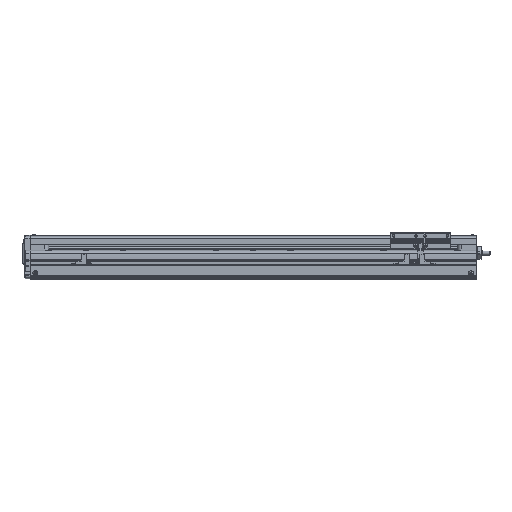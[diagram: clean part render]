
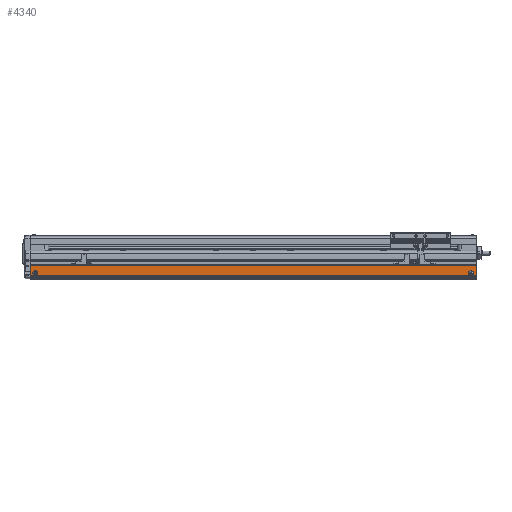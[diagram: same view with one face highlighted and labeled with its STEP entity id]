
A CAD part, left-side view. The second image highlights one B-rep face of the part: STEP entity #4340.
In plain terms, the highlighted planar face has unit normal (-1, 0, 0).
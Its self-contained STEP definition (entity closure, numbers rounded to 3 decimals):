
#4340=ADVANCED_FACE('',(#9778,#9779,#9780),#9781,.F.);
#9778=FACE_BOUND('',#16981,.T.);
#9779=FACE_BOUND('',#16982,.T.);
#9780=FACE_OUTER_BOUND('',#16983,.T.);
#9781=PLANE('',#16984);
#16981=EDGE_LOOP('',(#29174,#29175));
#16982=EDGE_LOOP('',(#29176,#29177));
#16983=EDGE_LOOP('',(#29178,#29179,#29180,#29181));
#16984=AXIS2_PLACEMENT_3D('',#29182,#29183,#29184);
#29174=ORIENTED_EDGE('',*,*,#45676,.F.);
#29175=ORIENTED_EDGE('',*,*,#42914,.F.);
#29176=ORIENTED_EDGE('',*,*,#45677,.F.);
#29177=ORIENTED_EDGE('',*,*,#45678,.F.);
#29178=ORIENTED_EDGE('',*,*,#45679,.F.);
#29179=ORIENTED_EDGE('',*,*,#45680,.F.);
#29180=ORIENTED_EDGE('',*,*,#45681,.F.);
#29181=ORIENTED_EDGE('',*,*,#45682,.T.);
#29182=CARTESIAN_POINT('',(251.5,615.,-23.942));
#29183=DIRECTION('',(1.,0.,0.));
#29184=DIRECTION('',(0.,0.,1.));
#42914=EDGE_CURVE('',#51820,#51812,#51822,.T.);
#45676=EDGE_CURVE('',#51812,#51820,#56228,.T.);
#45677=EDGE_CURVE('',#56229,#56230,#56231,.T.);
#45678=EDGE_CURVE('',#56230,#56229,#56232,.T.);
#45679=EDGE_CURVE('',#56233,#56234,#56235,.T.);
#45680=EDGE_CURVE('',#56236,#56233,#56237,.T.);
#45681=EDGE_CURVE('',#56238,#56236,#56239,.T.);
#45682=EDGE_CURVE('',#56238,#56234,#56240,.T.);
#51812=VERTEX_POINT('',#64306);
#51820=VERTEX_POINT('',#64324);
#51822=CIRCLE('',#64327,3.25);
#56228=CIRCLE('',#70662,3.25);
#56229=VERTEX_POINT('',#70663);
#56230=VERTEX_POINT('',#70664);
#56231=CIRCLE('',#70665,3.25);
#56232=CIRCLE('',#70666,3.25);
#56233=VERTEX_POINT('',#70667);
#56234=VERTEX_POINT('',#70668);
#56235=LINE('',#70669,#70670);
#56236=VERTEX_POINT('',#70671);
#56237=LINE('',#70672,#70673);
#56238=VERTEX_POINT('',#70674);
#56239=LINE('',#70675,#70676);
#56240=LINE('',#70677,#70678);
#64306=CARTESIAN_POINT('',(251.5,611.25,-27.));
#64324=CARTESIAN_POINT('',(251.5,604.75,-27.));
#64327=AXIS2_PLACEMENT_3D('',#78572,#78573,#78574);
#70662=AXIS2_PLACEMENT_3D('',#81919,#81920,#81921);
#70663=CARTESIAN_POINT('',(251.5,18.75,-27.));
#70664=CARTESIAN_POINT('',(251.5,25.25,-27.));
#70665=AXIS2_PLACEMENT_3D('',#81922,#81923,#81924);
#70666=AXIS2_PLACEMENT_3D('',#81925,#81926,#81927);
#70667=CARTESIAN_POINT('',(251.5,15.,-17.02));
#70668=CARTESIAN_POINT('',(251.5,15.,-30.864));
#70669=CARTESIAN_POINT('',(251.5,15.,-30.864));
#70670=VECTOR('',#81928,10.0);
#70671=CARTESIAN_POINT('',(251.5,615.,-17.02));
#70672=CARTESIAN_POINT('',(251.5,615.,-17.02));
#70673=VECTOR('',#81929,10.0);
#70674=CARTESIAN_POINT('',(251.5,615.,-30.864));
#70675=CARTESIAN_POINT('',(251.5,615.,-30.864));
#70676=VECTOR('',#81930,10.0);
#70677=CARTESIAN_POINT('',(251.5,615.,-30.864));
#70678=VECTOR('',#81931,10.0);
#78572=CARTESIAN_POINT('',(251.5,608.,-27.));
#78573=DIRECTION('',(-1.,0.,0.));
#78574=DIRECTION('',(0.,1.0,0.));
#81919=CARTESIAN_POINT('',(251.5,608.,-27.));
#81920=DIRECTION('',(-1.,0.,0.));
#81921=DIRECTION('',(0.,1.0,0.));
#81922=CARTESIAN_POINT('',(251.5,22.,-27.));
#81923=DIRECTION('',(-1.,0.,0.));
#81924=DIRECTION('',(0.,-1.0,0.));
#81925=CARTESIAN_POINT('',(251.5,22.,-27.));
#81926=DIRECTION('',(-1.,0.,0.));
#81927=DIRECTION('',(0.,-1.0,0.));
#81928=DIRECTION('',(0.,0.,-1.));
#81929=DIRECTION('',(0.,-1.0,0.));
#81930=DIRECTION('',(0.,0.,1.));
#81931=DIRECTION('',(0.,-1.0,0.));
